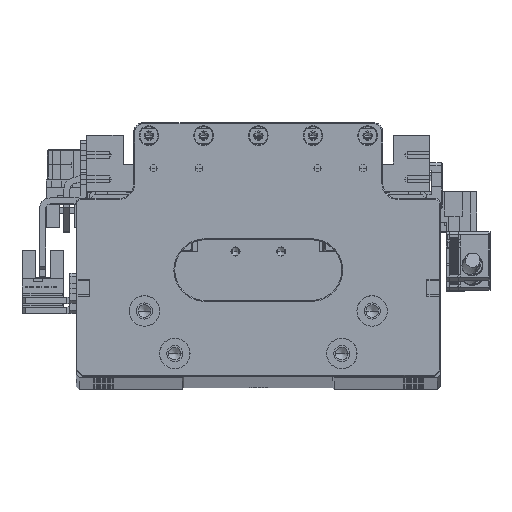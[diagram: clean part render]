
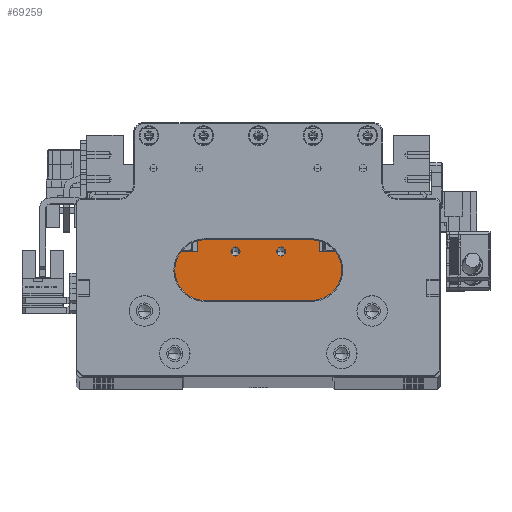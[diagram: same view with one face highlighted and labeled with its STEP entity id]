
A CAD part, top view. The second image highlights one B-rep face of the part: STEP entity #69259.
In plain terms, the highlighted planar face has unit normal (0, 0, 1).
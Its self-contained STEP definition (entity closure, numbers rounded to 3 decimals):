
#2115 = VERTEX_POINT ( 'NONE', #105544 ) ;
#3474 = CARTESIAN_POINT ( 'NONE',  ( -52.725, 59.78, 462.722 ) ) ;
#5232 = ORIENTED_EDGE ( 'NONE', *, *, #38076, .F. ) ;
#5760 = EDGE_CURVE ( 'NONE', #139071, #47862, #117045, .T. ) ;
#6150 = FACE_BOUND ( 'NONE', #43102, .T. ) ;
#6689 = LINE ( 'NONE', #76400, #62081 ) ;
#7294 = VECTOR ( 'NONE', #133335, 1000. ) ;
#7749 = CARTESIAN_POINT ( 'NONE',  ( -75.125, 79.08, 462.722 ) ) ;
#8332 = DIRECTION ( 'NONE',  ( 0., 1., 0. ) ) ;
#10848 = CARTESIAN_POINT ( 'NONE',  ( -112.525, 59.78, 462.722 ) ) ;
#12350 = VECTOR ( 'NONE', #93367, 1000. ) ;
#12806 = LINE ( 'NONE', #134431, #97725 ) ;
#15389 = AXIS2_PLACEMENT_3D ( 'NONE', #69135, #91435, #25036 ) ;
#15774 = ORIENTED_EDGE ( 'NONE', *, *, #100487, .F. ) ;
#17352 = ORIENTED_EDGE ( 'NONE', *, *, #27774, .F. ) ;
#18868 = DIRECTION ( 'NONE',  ( 1., 0., 0. ) ) ;
#20096 = ORIENTED_EDGE ( 'NONE', *, *, #112734, .F. ) ;
#22230 = VECTOR ( 'NONE', #45015, 1000. ) ;
#25036 = DIRECTION ( 'NONE',  ( -1., 0., 0. ) ) ;
#27502 = VERTEX_POINT ( 'NONE', #115363 ) ;
#27774 = EDGE_CURVE ( 'NONE', #44619, #39702, #6689, .T. ) ;
#33078 = VECTOR ( 'NONE', #90462, 1000. ) ;
#33860 = CARTESIAN_POINT ( 'NONE',  ( -90.125, 78.98, 462.722 ) ) ;
#35711 = PLANE ( 'NONE',  #15389 ) ;
#37687 = ORIENTED_EDGE ( 'NONE', *, *, #5760, .T. ) ;
#38076 = EDGE_CURVE ( 'NONE', #139071, #93232, #47822, .T. ) ;
#39702 = VERTEX_POINT ( 'NONE', #61404 ) ;
#40772 = ORIENTED_EDGE ( 'NONE', *, *, #93680, .F. ) ;
#43102 = EDGE_LOOP ( 'NONE', ( #87523, #64124 ) ) ;
#44619 = VERTEX_POINT ( 'NONE', #57016 ) ;
#44895 = EDGE_LOOP ( 'NONE', ( #15774, #5232, #37687, #46675, #114542, #17352, #40772, #116244 ) ) ;
#45015 = DIRECTION ( 'NONE',  ( 1., 0., 0. ) ) ;
#45712 = EDGE_CURVE ( 'NONE', #27502, #134313, #92251, .T. ) ;
#46675 = ORIENTED_EDGE ( 'NONE', *, *, #62173, .F. ) ;
#47822 = LINE ( 'NONE', #141105, #66811 ) ;
#47862 = VERTEX_POINT ( 'NONE', #3474 ) ;
#49435 = CARTESIAN_POINT ( 'NONE',  ( -90.125, 79.08, 462.722 ) ) ;
#49661 = CARTESIAN_POINT ( 'NONE',  ( -90.125, 79.08, 462.722 ) ) ;
#54348 = DIRECTION ( 'NONE',  ( 0., 0., 1. ) ) ;
#55757 = CARTESIAN_POINT ( 'NONE',  ( -102.625, 71.48, 462.722 ) ) ;
#57016 = CARTESIAN_POINT ( 'NONE',  ( -62.625, 82.98, 462.722 ) ) ;
#59980 = ORIENTED_EDGE ( 'NONE', *, *, #123895, .F. ) ;
#60530 = DIRECTION ( 'NONE',  ( 1., 0., 0. ) ) ;
#60736 = DIRECTION ( 'NONE',  ( 1., 0., 0. ) ) ;
#61404 = CARTESIAN_POINT ( 'NONE',  ( -62.625, 78.98, 462.722 ) ) ;
#62081 = VECTOR ( 'NONE', #120584, 1000. ) ;
#62173 = EDGE_CURVE ( 'NONE', #137471, #47862, #12806, .T. ) ;
#64124 = ORIENTED_EDGE ( 'NONE', *, *, #109712, .F. ) ;
#66811 = VECTOR ( 'NONE', #8332, 1000. ) ;
#67588 = AXIS2_PLACEMENT_3D ( 'NONE', #120806, #54348, #131935 ) ;
#68012 = DIRECTION ( 'NONE',  ( 0., -1., 0. ) ) ;
#68060 = DIRECTION ( 'NONE',  ( 1., 0., 0. ) ) ;
#69135 = CARTESIAN_POINT ( 'NONE',  ( -90.125, 71.48, 462.722 ) ) ;
#69259 = ADVANCED_FACE ( 'NONE', ( #94578, #124108, #6150 ), #35711, .F. ) ;
#69528 = CIRCLE ( 'NONE', #115797, 1.525 ) ;
#71060 = CARTESIAN_POINT ( 'NONE',  ( -90.125, 82.98, 462.722 ) ) ;
#72826 = CIRCLE ( 'NONE', #67588, 1.525 ) ;
#76354 = VERTEX_POINT ( 'NONE', #100843 ) ;
#76400 = CARTESIAN_POINT ( 'NONE',  ( -62.625, 71.48, 462.722 ) ) ;
#81272 = LINE ( 'NONE', #33860, #22230 ) ;
#85292 = DIRECTION ( 'NONE',  ( 0., 0., 1. ) ) ;
#86910 = CARTESIAN_POINT ( 'NONE',  ( -52.725, 78.98, 462.722 ) ) ;
#87523 = ORIENTED_EDGE ( 'NONE', *, *, #104302, .F. ) ;
#89922 = AXIS2_PLACEMENT_3D ( 'NONE', #7749, #85292, #18868 ) ;
#90390 = CIRCLE ( 'NONE', #89922, 1.525 ) ;
#90462 = DIRECTION ( 'NONE',  ( 1., 0., 0. ) ) ;
#91435 = DIRECTION ( 'NONE',  ( 0., 0., -1. ) ) ;
#92251 = LINE ( 'NONE', #55757, #7294 ) ;
#93232 = VERTEX_POINT ( 'NONE', #127020 ) ;
#93234 = CARTESIAN_POINT ( 'NONE',  ( -102.625, 82.98, 462.722 ) ) ;
#93367 = DIRECTION ( 'NONE',  ( 1., 0., 0. ) ) ;
#93680 = EDGE_CURVE ( 'NONE', #134313, #44619, #100763, .T. ) ;
#94199 = CARTESIAN_POINT ( 'NONE',  ( -76.65, 79.08, 462.722 ) ) ;
#94578 = FACE_OUTER_BOUND ( 'NONE', #44895, .T. ) ;
#97725 = VECTOR ( 'NONE', #68012, 1000. ) ;
#99902 = VERTEX_POINT ( 'NONE', #94199 ) ;
#100487 = EDGE_CURVE ( 'NONE', #93232, #27502, #118115, .T. ) ;
#100763 = LINE ( 'NONE', #71060, #12350 ) ;
#100843 = CARTESIAN_POINT ( 'NONE',  ( -91.65, 79.08, 462.722 ) ) ;
#104302 = EDGE_CURVE ( 'NONE', #120587, #76354, #69528, .T. ) ;
#105544 = CARTESIAN_POINT ( 'NONE',  ( -73.6, 79.08, 462.722 ) ) ;
#106302 = EDGE_LOOP ( 'NONE', ( #20096, #59980 ) ) ;
#109712 = EDGE_CURVE ( 'NONE', #76354, #120587, #120371, .T. ) ;
#112734 = EDGE_CURVE ( 'NONE', #2115, #99902, #90390, .T. ) ;
#112814 = CARTESIAN_POINT ( 'NONE',  ( -90.125, 78.98, 462.722 ) ) ;
#114542 = ORIENTED_EDGE ( 'NONE', *, *, #114799, .F. ) ;
#114799 = EDGE_CURVE ( 'NONE', #39702, #137471, #81272, .T. ) ;
#115363 = CARTESIAN_POINT ( 'NONE',  ( -102.625, 78.98, 462.722 ) ) ;
#115797 = AXIS2_PLACEMENT_3D ( 'NONE', #49435, #127051, #60530 ) ;
#116211 = AXIS2_PLACEMENT_3D ( 'NONE', #49661, #127248, #60736 ) ;
#116244 = ORIENTED_EDGE ( 'NONE', *, *, #45712, .F. ) ;
#117045 = LINE ( 'NONE', #134498, #143007 ) ;
#118115 = LINE ( 'NONE', #112814, #33078 ) ;
#120371 = CIRCLE ( 'NONE', #116211, 1.525 ) ;
#120584 = DIRECTION ( 'NONE',  ( 0., -1., 0. ) ) ;
#120587 = VERTEX_POINT ( 'NONE', #139863 ) ;
#120806 = CARTESIAN_POINT ( 'NONE',  ( -75.125, 79.08, 462.722 ) ) ;
#123895 = EDGE_CURVE ( 'NONE', #99902, #2115, #72826, .T. ) ;
#124108 = FACE_BOUND ( 'NONE', #106302, .T. ) ;
#127020 = CARTESIAN_POINT ( 'NONE',  ( -112.525, 78.98, 462.722 ) ) ;
#127051 = DIRECTION ( 'NONE',  ( 0., 0., 1. ) ) ;
#127248 = DIRECTION ( 'NONE',  ( 0., 0., 1. ) ) ;
#131935 = DIRECTION ( 'NONE',  ( 1., 0., 0. ) ) ;
#133335 = DIRECTION ( 'NONE',  ( 0., 1., 0. ) ) ;
#134313 = VERTEX_POINT ( 'NONE', #93234 ) ;
#134431 = CARTESIAN_POINT ( 'NONE',  ( -52.725, 71.48, 462.722 ) ) ;
#134498 = CARTESIAN_POINT ( 'NONE',  ( -90.125, 59.78, 462.722 ) ) ;
#137471 = VERTEX_POINT ( 'NONE', #86910 ) ;
#139071 = VERTEX_POINT ( 'NONE', #10848 ) ;
#139863 = CARTESIAN_POINT ( 'NONE',  ( -88.6, 79.08, 462.722 ) ) ;
#141105 = CARTESIAN_POINT ( 'NONE',  ( -112.525, 71.48, 462.722 ) ) ;
#143007 = VECTOR ( 'NONE', #68060, 1000. ) ;
